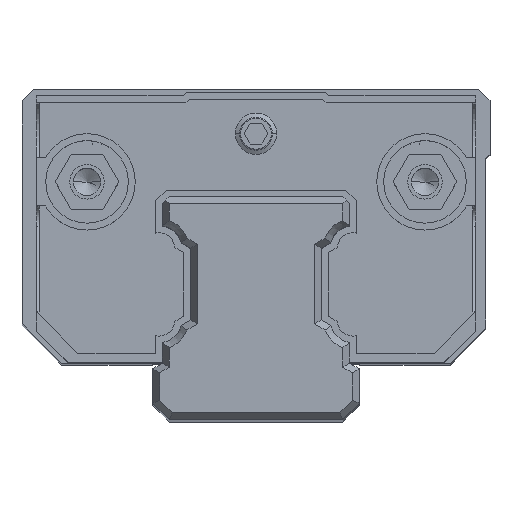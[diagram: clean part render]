
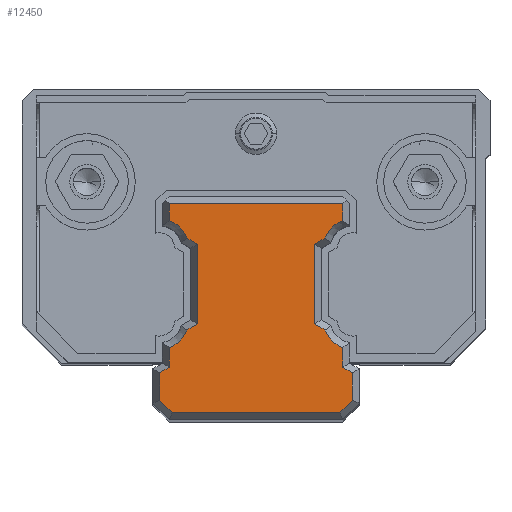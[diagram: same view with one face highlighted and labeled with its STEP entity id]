
A CAD part, top view. The second image highlights one B-rep face of the part: STEP entity #12450.
In plain terms, the highlighted planar face has unit normal (0, 0, 1).
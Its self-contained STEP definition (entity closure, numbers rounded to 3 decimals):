
#11764=DIRECTION('',(-1.,0.,0.));
#11765=VECTOR('',#11764,12.6);
#11766=CARTESIAN_POINT('',(6.3,5.85,51.3));
#11767=LINE('',#11766,#11765);
#11768=DIRECTION('',(0.,1.,0.));
#11769=VECTOR('',#11768,1.23);
#11770=CARTESIAN_POINT('',(6.3,4.62,51.3));
#11771=LINE('',#11770,#11769);
#11772=DIRECTION('',(0.866,0.5,0.));
#11773=VECTOR('',#11772,0.894);
#11774=CARTESIAN_POINT('',(4.25,2.889,51.3));
#11775=LINE('',#11774,#11773);
#11776=DIRECTION('',(0.,1.,0.));
#11777=VECTOR('',#11776,5.777);
#11778=CARTESIAN_POINT('',(4.25,-2.889,51.3));
#11779=LINE('',#11778,#11777);
#11780=DIRECTION('',(-0.866,0.5,0.));
#11781=VECTOR('',#11780,0.894);
#11782=CARTESIAN_POINT('',(5.024,-3.336,
51.3));
#11783=LINE('',#11782,#11781);
#11784=DIRECTION('',(0.,1.,0.));
#11785=VECTOR('',#11784,1.418);
#11786=CARTESIAN_POINT('',(6.3,-6.039,51.3));
#11787=LINE('',#11786,#11785);
#11788=DIRECTION('',(-0.866,0.5,0.));
#11789=VECTOR('',#11788,0.808);
#11790=CARTESIAN_POINT('',(7.,-6.443,51.3));
#11791=LINE('',#11790,#11789);
#11792=DIRECTION('',(0.,1.,0.));
#11793=VECTOR('',#11792,2.);
#11794=CARTESIAN_POINT('',(7.,-8.443,51.3));
#11795=LINE('',#11794,#11793);
#11796=DIRECTION('',(0.707,0.707,0.));
#11797=VECTOR('',#11796,1.283);
#11798=CARTESIAN_POINT('',(6.093,-9.35,51.3));
#11799=LINE('',#11798,#11797);
#11800=DIRECTION('',(1.,0.,0.));
#11801=VECTOR('',#11800,12.186);
#11802=CARTESIAN_POINT('',(-6.093,-9.35,51.3));
#11803=LINE('',#11802,#11801);
#11804=DIRECTION('',(0.707,-0.707,0.));
#11805=VECTOR('',#11804,1.283);
#11806=CARTESIAN_POINT('',(-7.,-8.443,51.3));
#11807=LINE('',#11806,#11805);
#11808=DIRECTION('',(0.,-1.,0.));
#11809=VECTOR('',#11808,2.);
#11810=CARTESIAN_POINT('',(-7.,-6.443,51.3));
#11811=LINE('',#11810,#11809);
#11812=DIRECTION('',(-0.866,-0.5,0.));
#11813=VECTOR('',#11812,0.808);
#11814=CARTESIAN_POINT('',(-6.3,-6.039,51.3));
#11815=LINE('',#11814,#11813);
#11816=DIRECTION('',(0.,-1.,0.));
#11817=VECTOR('',#11816,1.418);
#11818=CARTESIAN_POINT('',(-6.3,-4.62,
51.3));
#11819=LINE('',#11818,#11817);
#11820=DIRECTION('',(-0.866,-0.5,0.));
#11821=VECTOR('',#11820,0.894);
#11822=CARTESIAN_POINT('',(-4.25,-2.889,51.3));
#11823=LINE('',#11822,#11821);
#11824=DIRECTION('',(0.,-1.,0.));
#11825=VECTOR('',#11824,5.777);
#11826=CARTESIAN_POINT('',(-4.25,2.889,51.3));
#11827=LINE('',#11826,#11825);
#11828=DIRECTION('',(0.866,-0.5,0.));
#11829=VECTOR('',#11828,0.894);
#11830=CARTESIAN_POINT('',(-5.024,3.336,
51.3));
#11831=LINE('',#11830,#11829);
#11832=DIRECTION('',(0.,-1.,0.));
#11833=VECTOR('',#11832,1.23);
#11834=CARTESIAN_POINT('',(-6.3,5.85,51.3));
#11835=LINE('',#11834,#11833);
#11863=CARTESIAN_POINT('',(-7.046,2.604,51.3));
#11864=DIRECTION('',(0.,0.,-1.));
#11865=DIRECTION('',(0.347,0.938,0.));
#11866=AXIS2_PLACEMENT_3D('',#11863,#11864,#11865);
#11923=CARTESIAN_POINT('',(-7.046,-2.604,51.3));
#11924=DIRECTION('',(0.,0.,-1.));
#11925=DIRECTION('',(0.94,-0.34,0.));
#11926=AXIS2_PLACEMENT_3D('',#11923,#11924,#11925);
#12055=CARTESIAN_POINT('',(7.046,-2.604,51.3));
#12056=DIRECTION('',(0.,0.,-1.));
#12057=DIRECTION('',(-0.347,-0.938,0.));
#12058=AXIS2_PLACEMENT_3D('',#12055,#12056,#12057);
#12120=CARTESIAN_POINT('',(7.046,2.604,51.3));
#12121=DIRECTION('',(0.,0.,-1.));
#12122=DIRECTION('',(-0.94,0.34,0.));
#12123=AXIS2_PLACEMENT_3D('',#12120,#12121,#12122);
#12212=CARTESIAN_POINT('',(6.3,5.85,51.3));
#12213=CARTESIAN_POINT('',(-6.3,5.85,51.3));
#12214=VERTEX_POINT('',#12212);
#12215=VERTEX_POINT('',#12213);
#12220=CARTESIAN_POINT('',(6.3,4.62,51.3));
#12221=VERTEX_POINT('',#12220);
#12226=CARTESIAN_POINT('',(4.25,2.889,51.3));
#12227=CARTESIAN_POINT('',(5.024,3.336,51.3));
#12228=VERTEX_POINT('',#12226);
#12229=VERTEX_POINT('',#12227);
#12232=CARTESIAN_POINT('',(4.25,-2.889,51.3));
#12233=VERTEX_POINT('',#12232);
#12234=CARTESIAN_POINT('',(5.024,-3.336,
51.3));
#12235=VERTEX_POINT('',#12234);
#12242=CARTESIAN_POINT('',(6.3,-6.039,51.3));
#12243=CARTESIAN_POINT('',(6.3,-4.62,
51.3));
#12244=VERTEX_POINT('',#12242);
#12245=VERTEX_POINT('',#12243);
#12248=CARTESIAN_POINT('',(7.,-6.443,51.3));
#12249=VERTEX_POINT('',#12248);
#12252=CARTESIAN_POINT('',(7.,-8.443,51.3));
#12253=VERTEX_POINT('',#12252);
#12256=CARTESIAN_POINT('',(6.093,-9.35,51.3));
#12257=VERTEX_POINT('',#12256);
#12260=CARTESIAN_POINT('',(-6.093,-9.35,51.3));
#12261=VERTEX_POINT('',#12260);
#12264=CARTESIAN_POINT('',(-7.,-8.443,51.3));
#12265=VERTEX_POINT('',#12264);
#12268=CARTESIAN_POINT('',(-7.,-6.443,51.3));
#12269=VERTEX_POINT('',#12268);
#12272=CARTESIAN_POINT('',(-6.3,-6.039,51.3));
#12273=VERTEX_POINT('',#12272);
#12276=CARTESIAN_POINT('',(-6.3,-4.62,
51.3));
#12277=VERTEX_POINT('',#12276);
#12282=CARTESIAN_POINT('',(-4.25,-2.889,51.3));
#12283=CARTESIAN_POINT('',(-5.024,-3.336,
51.3));
#12284=VERTEX_POINT('',#12282);
#12285=VERTEX_POINT('',#12283);
#12288=CARTESIAN_POINT('',(-4.25,2.889,51.3));
#12289=VERTEX_POINT('',#12288);
#12292=CARTESIAN_POINT('',(-5.024,3.336,
51.3));
#12293=VERTEX_POINT('',#12292);
#12296=CARTESIAN_POINT('',(-6.3,4.62,
51.3));
#12297=VERTEX_POINT('',#12296);
#12401=CARTESIAN_POINT('',(0.,0.,51.3));
#12402=DIRECTION('',(0.,0.,1.));
#12403=DIRECTION('',(1.,0.,0.));
#12404=AXIS2_PLACEMENT_3D('',#12401,#12402,#12403);
#12405=PLANE('',#12404);
#12407=ORIENTED_EDGE('',*,*,#12406,.F.);
#12409=ORIENTED_EDGE('',*,*,#12408,.F.);
#12411=ORIENTED_EDGE('',*,*,#12410,.F.);
#12413=ORIENTED_EDGE('',*,*,#12412,.F.);
#12414=ORIENTED_EDGE('',*,*,#12379,.F.);
#12415=ORIENTED_EDGE('',*,*,#12391,.F.);
#12417=ORIENTED_EDGE('',*,*,#12416,.F.);
#12419=ORIENTED_EDGE('',*,*,#12418,.F.);
#12421=ORIENTED_EDGE('',*,*,#12420,.F.);
#12423=ORIENTED_EDGE('',*,*,#12422,.F.);
#12425=ORIENTED_EDGE('',*,*,#12424,.F.);
#12427=ORIENTED_EDGE('',*,*,#12426,.F.);
#12429=ORIENTED_EDGE('',*,*,#12428,.F.);
#12431=ORIENTED_EDGE('',*,*,#12430,.F.);
#12433=ORIENTED_EDGE('',*,*,#12432,.F.);
#12435=ORIENTED_EDGE('',*,*,#12434,.F.);
#12437=ORIENTED_EDGE('',*,*,#12436,.F.);
#12439=ORIENTED_EDGE('',*,*,#12438,.F.);
#12441=ORIENTED_EDGE('',*,*,#12440,.F.);
#12443=ORIENTED_EDGE('',*,*,#12442,.F.);
#12445=ORIENTED_EDGE('',*,*,#12444,.F.);
#12447=ORIENTED_EDGE('',*,*,#12446,.F.);
#12448=EDGE_LOOP('',(#12407,#12409,#12411,#12413,#12414,#12415,#12417,#12419,
#12421,#12423,#12425,#12427,#12429,#12431,#12433,#12435,#12437,#12439,#12441,
#12443,#12445,#12447));
#12449=FACE_OUTER_BOUND('',#12448,.F.);
#11867=CIRCLE('',#11866,2.15);
#11927=CIRCLE('',#11926,2.15);
#12059=CIRCLE('',#12058,2.15);
#12124=CIRCLE('',#12123,2.15);
#12379=EDGE_CURVE('',#12233,#12228,#11779,.T.);
#12391=EDGE_CURVE('',#12235,#12233,#11783,.T.);
#12406=EDGE_CURVE('',#12214,#12215,#11767,.T.);
#12408=EDGE_CURVE('',#12221,#12214,#11771,.T.);
#12410=EDGE_CURVE('',#12229,#12221,#12124,.T.);
#12412=EDGE_CURVE('',#12228,#12229,#11775,.T.);
#12416=EDGE_CURVE('',#12245,#12235,#12059,.T.);
#12418=EDGE_CURVE('',#12244,#12245,#11787,.T.);
#12420=EDGE_CURVE('',#12249,#12244,#11791,.T.);
#12422=EDGE_CURVE('',#12253,#12249,#11795,.T.);
#12424=EDGE_CURVE('',#12257,#12253,#11799,.T.);
#12426=EDGE_CURVE('',#12261,#12257,#11803,.T.);
#12428=EDGE_CURVE('',#12265,#12261,#11807,.T.);
#12430=EDGE_CURVE('',#12269,#12265,#11811,.T.);
#12432=EDGE_CURVE('',#12273,#12269,#11815,.T.);
#12434=EDGE_CURVE('',#12277,#12273,#11819,.T.);
#12436=EDGE_CURVE('',#12285,#12277,#11927,.T.);
#12438=EDGE_CURVE('',#12284,#12285,#11823,.T.);
#12440=EDGE_CURVE('',#12289,#12284,#11827,.T.);
#12442=EDGE_CURVE('',#12293,#12289,#11831,.T.);
#12444=EDGE_CURVE('',#12297,#12293,#11867,.T.);
#12446=EDGE_CURVE('',#12215,#12297,#11835,.T.);
#12450=ADVANCED_FACE('',(#12449),#12405,.T.);
